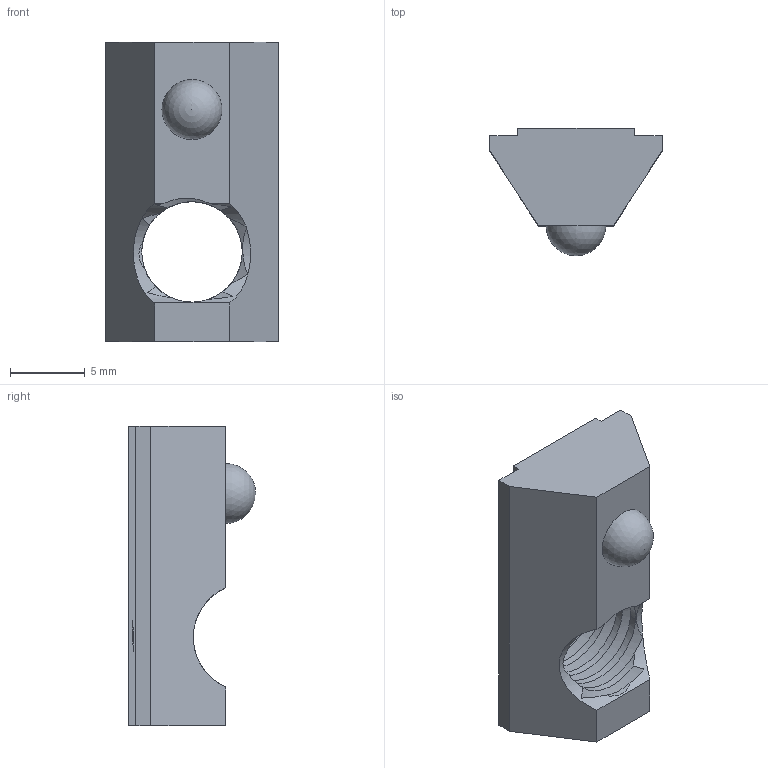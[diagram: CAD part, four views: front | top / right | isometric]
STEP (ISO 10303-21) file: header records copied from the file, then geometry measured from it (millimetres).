
FILE_DESCRIPTION (( 'STEP AP203' ), '1' );
FILE_NAME ('135-CE-EN-30-M8.STEP', '2015-07-09T08:59:51', ( '' ), ( '' ), 'SwSTEP 2.0', 'SolidWorks 2013', '' );
FILE_SCHEMA (( 'CONFIG_CONTROL_DESIGN' ));
Length unit declared in the file: millimetre
Products named in the file (1): 135-CE-EN-30-M8
Bounding box: 11.5 x 8.5 x 20 mm (x, y, z)
Volume: 847.5 mm3; surface area: 964.9 mm2
Topology: 2 solids, 2 shells, 38 faces, 112 edges, 75 vertices
Faces by surface type: cylinder 15, plane 14, bspline 7, sphere 2
Entity records: 3993 total; most frequent: CARTESIAN_POINT 3083, ORIENTED_EDGE 214, DIRECTION 122, EDGE_CURVE 107, VERTEX_POINT 72, LINE 44, VECTOR 44, EDGE_LOOP 41
